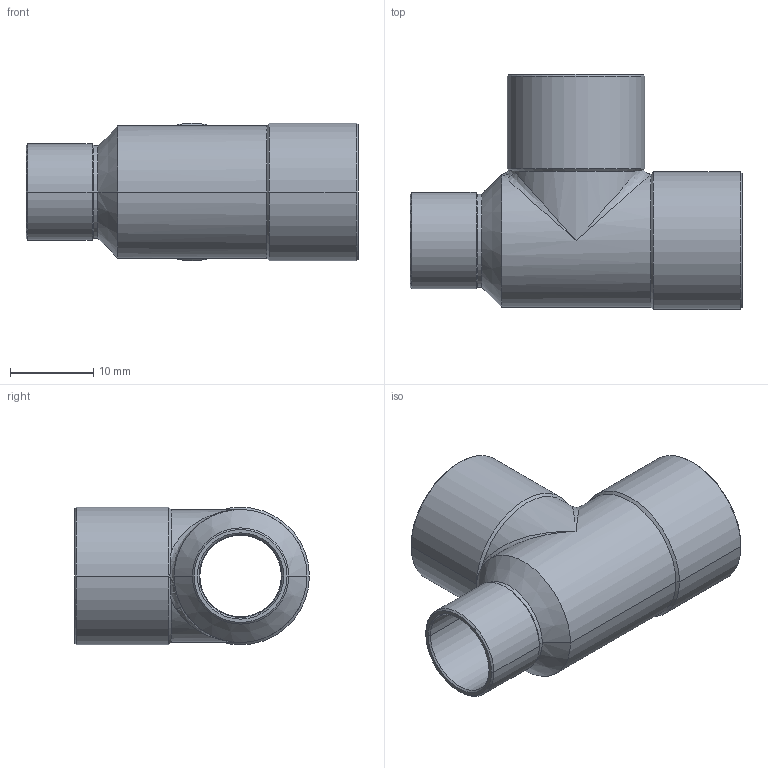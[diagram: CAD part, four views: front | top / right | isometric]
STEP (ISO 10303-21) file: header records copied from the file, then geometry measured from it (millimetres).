
FILE_DESCRIPTION((''),'2;1');
FILE_NAME('P:\Bouwmaten\z-maattekeningen 3D\5000\5130\5130151510.stp','2005-10-26T11:52:49',('Kris'),(''),'Autodesk Inventor 8','Autodesk Inventor 8','');
FILE_SCHEMA(('AUTOMOTIVE_DESIGN { 1 0 10303 214 1 1 1 1 }'));
Length unit declared in the file: millimetre
Products named in the file (1): 5130151510
Bounding box: 40 x 28.3 x 16.6 mm (x, y, z)
Volume: 1829.1 mm3; surface area: 4770 mm2
Topology: 1 solids, 1 shells, 57 faces, 140 edges, 76 vertices
Faces by surface type: cone 28, cylinder 22, bspline 4, plane 3
Entity records: 2093 total; most frequent: CARTESIAN_POINT 772, DIRECTION 290, ORIENTED_EDGE 264, EDGE_CURVE 132, AXIS2_PLACEMENT_3D 124, VERTEX_POINT 76, EDGE_LOOP 60, FACE_OUTER_BOUND 57
